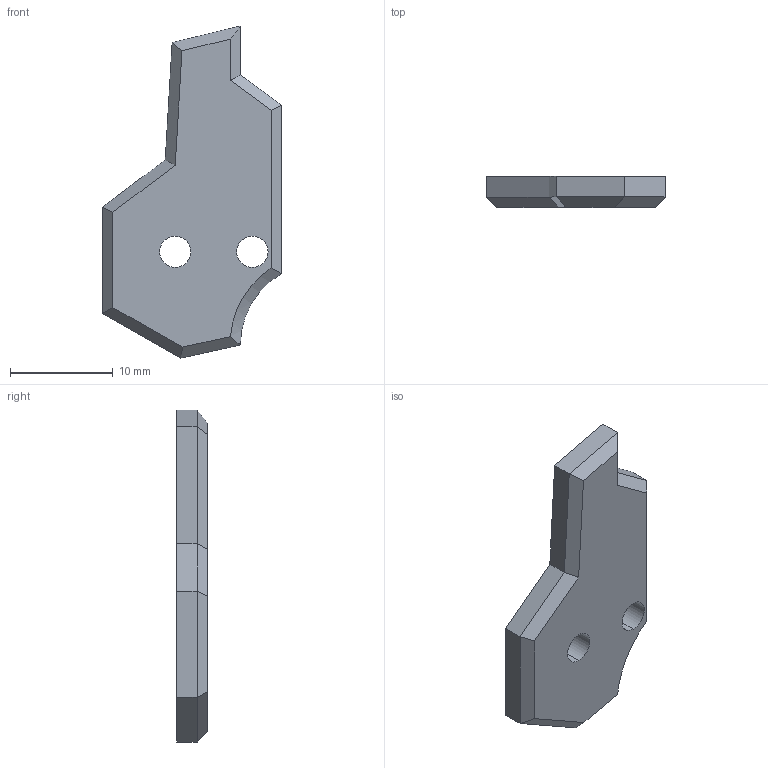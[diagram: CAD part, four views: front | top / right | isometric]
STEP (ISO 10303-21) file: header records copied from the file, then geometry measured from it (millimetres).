
FILE_DESCRIPTION (( 'STEP AP214' ), '1' );
FILE_NAME ('cnc裔啣衵.STEP', '2026-04-12T11:09:50', ( '' ), ( '' ), 'SwSTEP 2.0', 'SolidWorks 2024', '' );
FILE_SCHEMA (( 'AUTOMOTIVE_DESIGN' ));
Length unit declared in the file: millimetre
Products named in the file (1): cnc盖板右
Bounding box: 17.39 x 3 x 32.27 mm (x, y, z)
Volume: 1078.2 mm3; surface area: 1008.3 mm2
Topology: 1 solids, 1 shells, 26 faces, 62 edges, 38 vertices
Faces by surface type: plane 20, cylinder 5, cone 1
Entity records: 770 total; most frequent: CARTESIAN_POINT 133, DIRECTION 125, ORIENTED_EDGE 124, EDGE_CURVE 62, VECTOR 49, LINE 49, AXIS2_PLACEMENT_3D 38, VERTEX_POINT 38
